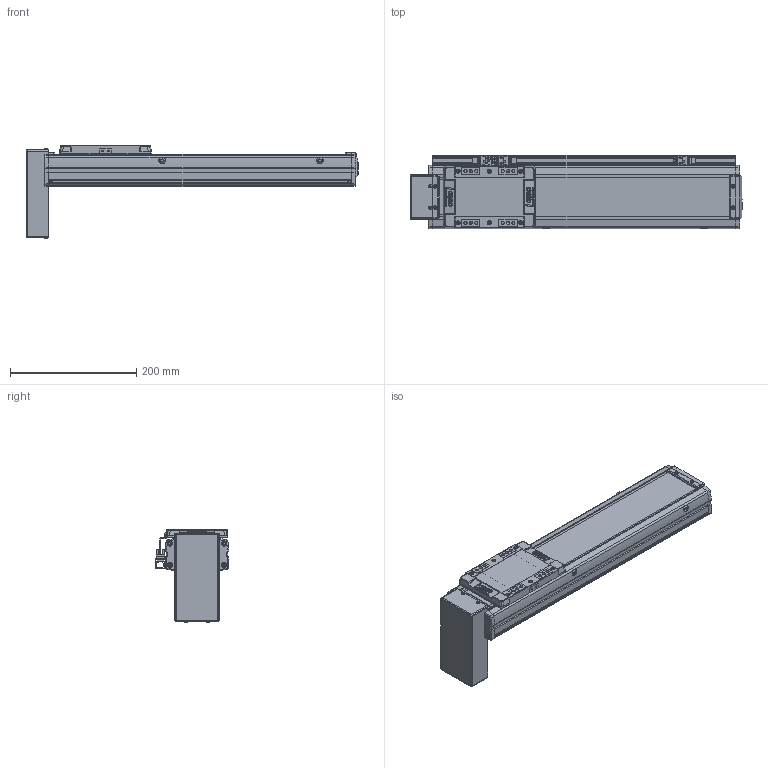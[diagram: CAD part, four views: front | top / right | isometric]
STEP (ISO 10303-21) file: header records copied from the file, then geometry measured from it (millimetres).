
FILE_DESCRIPTION(('STEP AP214'),'1');
FILE_NAME('Z:/Web/3D/SAN100/SAN100 양산용 (STEP)/SAN100ㅁㅁ-300PB+3SL.stp','2013-04-25T06:50:25',(' '),(' '),'Spatial InterOp 3D',' ',' ');
FILE_SCHEMA(('automotive_design'));
Length unit declared in the file: millimetre
Products named in the file (55): SGD-SAN100; M3.0 x 6.0; SRL-16x17-380L; EE-SX674; SBK-SX674-352; 스크루 : Round - M3.0 x 6.0; BTCV-SAN100; 스크루 : Round - M4.0 x 10.0; FRCV-SAN100; SUS COVER; SFX-SAN100; RRCV-SAN100; FRBL-SAN100; SLBL-SAN100; SLCV-SAN100; 스크루 : Countersunk - M3.0 x 6.0; BASE; 스크루 : Round - M5.0 x 6.0
Bounding box: 526.5 x 116 x 148.36 mm (x, y, z)
Volume: 1815883.9 mm3; surface area: 476230.3 mm2
Topology: 55 solids, 56 shells, 2495 faces, 6470 edges, 4193 vertices
Faces by surface type: plane 1360, cylinder 815, cone 206, sphere 72, torus 30, bspline 12
Entity records: 97970 total; most frequent: CARTESIAN_POINT 14295, DIRECTION 13691, ORIENTED_EDGE 12784, EDGE_CURVE 6392, AXIS2_PLACEMENT_3D 4850, VERTEX_POINT 4193, LINE 3991, VECTOR 3991
